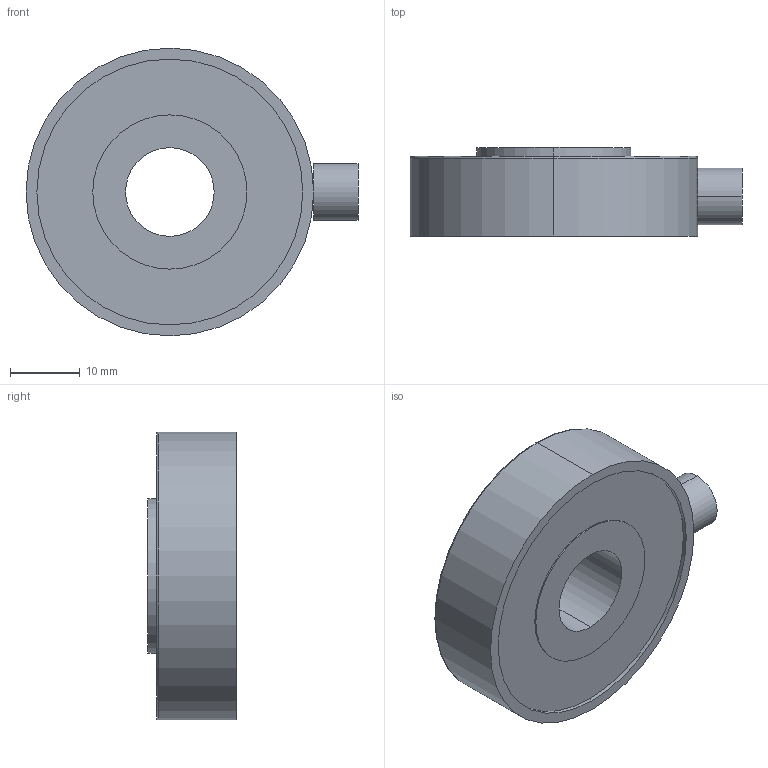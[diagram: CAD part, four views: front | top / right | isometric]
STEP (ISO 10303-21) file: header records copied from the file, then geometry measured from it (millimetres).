
FILE_DESCRIPTION (( 'STEP AP214' ), '1' );
FILE_NAME ('FINAL ASBY SS1628-250LB.STEP', '2024-08-12T14:50:19', ( '' ), ( '' ), 'SwSTEP 2.0', 'SolidWorks 2008', '' );
FILE_SCHEMA (( 'AUTOMOTIVE_DESIGN' ));
Length unit declared in the file: inch
Products named in the file (1): FINAL ASBY SS1628-250LB
Bounding box: 47.57 x 12.7 x 41.22 mm (x, y, z)
Volume: 13920.2 mm3; surface area: 4812.4 mm2
Topology: 2 solids, 2 shells, 21 faces, 40 edges, 26 vertices
Faces by surface type: cylinder 12, plane 7, torus 2
Entity records: 588 total; most frequent: DIRECTION 112, CARTESIAN_POINT 88, ORIENTED_EDGE 80, AXIS2_PLACEMENT_3D 50, EDGE_CURVE 40, CIRCLE 28, VERTEX_POINT 26, EDGE_LOOP 26
